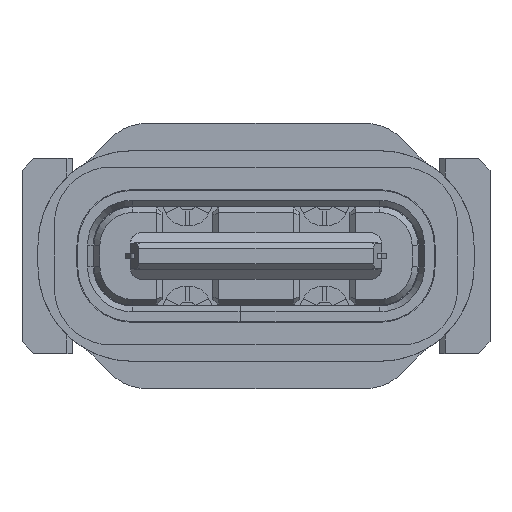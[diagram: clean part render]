
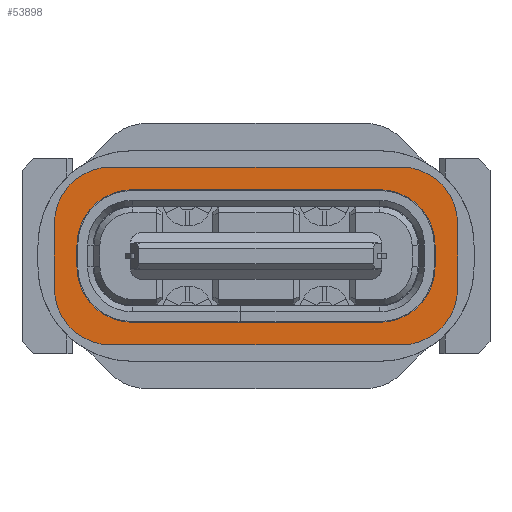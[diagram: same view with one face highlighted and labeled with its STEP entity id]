
A CAD part, front view. The second image highlights one B-rep face of the part: STEP entity #53898.
In plain terms, the highlighted planar face has unit normal (0, -1, 0).
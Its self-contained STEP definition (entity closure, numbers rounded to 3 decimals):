
#654 = ORIENTED_EDGE ( 'NONE', *, *, #29919, .T. ) ;
#780 = CARTESIAN_POINT ( 'NONE',  ( -4.59, 2.05, -0.28 ) ) ;
#984 = DIRECTION ( 'NONE',  ( -1., 0., 0. ) ) ;
#1003 = VERTEX_POINT ( 'NONE', #30060 ) ;
#2248 = CARTESIAN_POINT ( 'NONE',  ( -3.72, 2.05, 2.28 ) ) ;
#2548 = AXIS2_PLACEMENT_3D ( 'NONE', #55043, #28400, #32859 ) ;
#2582 = VERTEX_POINT ( 'NONE', #34916 ) ;
#2728 = CARTESIAN_POINT ( 'NONE',  ( 4.59, 2.05, -0.28 ) ) ;
#3539 = LINE ( 'NONE', #19230, #53010 ) ;
#3617 = CIRCLE ( 'NONE', #2548, 1.45 ) ;
#5668 = CARTESIAN_POINT ( 'NONE',  ( 4.59, 2.05, 0.28 ) ) ;
#6134 = CARTESIAN_POINT ( 'NONE',  ( -3.17, 2.05, 1.7 ) ) ;
#6153 = ORIENTED_EDGE ( 'NONE', *, *, #15359, .T. ) ;
#6462 = EDGE_CURVE ( 'NONE', #18599, #46091, #64008, .T. ) ;
#6954 = AXIS2_PLACEMENT_3D ( 'NONE', #62800, #42631, #63462 ) ;
#7701 = EDGE_CURVE ( 'NONE', #2582, #14417, #65459, .T. ) ;
#7747 = VERTEX_POINT ( 'NONE', #2248 ) ;
#7987 = AXIS2_PLACEMENT_3D ( 'NONE', #40722, #25350, #51979 ) ;
#8600 = ORIENTED_EDGE ( 'NONE', *, *, #67181, .T. ) ;
#8833 = DIRECTION ( 'NONE',  ( 0., -1., 0. ) ) ;
#8845 = CARTESIAN_POINT ( 'NONE',  ( 0., 2.05, 0. ) ) ;
#8975 = EDGE_CURVE ( 'NONE', #52590, #50797, #59598, .T. ) ;
#9856 = VECTOR ( 'NONE', #43208, 1000. ) ;
#10377 = DIRECTION ( 'NONE',  ( 0., -1., 0. ) ) ;
#10667 = LINE ( 'NONE', #780, #37428 ) ;
#10689 = CARTESIAN_POINT ( 'NONE',  ( -5.17, 2.05, 0.83 ) ) ;
#11037 = ORIENTED_EDGE ( 'NONE', *, *, #56728, .F. ) ;
#11854 = DIRECTION ( 'NONE',  ( 1., 0., 0. ) ) ;
#12390 = EDGE_CURVE ( 'NONE', #46091, #13156, #25447, .T. ) ;
#12628 = ORIENTED_EDGE ( 'NONE', *, *, #14397, .T. ) ;
#12660 = VERTEX_POINT ( 'NONE', #65834 ) ;
#13156 = VERTEX_POINT ( 'NONE', #24195 ) ;
#13290 = VERTEX_POINT ( 'NONE', #67505 ) ;
#14397 = EDGE_CURVE ( 'NONE', #13156, #2582, #29995, .T. ) ;
#14417 = VERTEX_POINT ( 'NONE', #41240 ) ;
#14643 = CARTESIAN_POINT ( 'NONE',  ( 3.17, 2.05, -1.7 ) ) ;
#14826 = ORIENTED_EDGE ( 'NONE', *, *, #8975, .F. ) ;
#15113 = CARTESIAN_POINT ( 'NONE',  ( -4.59, 2.05, 0.28 ) ) ;
#15359 = EDGE_CURVE ( 'NONE', #7747, #50797, #3617, .T. ) ;
#16011 = VERTEX_POINT ( 'NONE', #15113 ) ;
#16326 = CARTESIAN_POINT ( 'NONE',  ( 3.72, 2.05, -2.28 ) ) ;
#17081 = CARTESIAN_POINT ( 'NONE',  ( -5.17, 2.05, -0.83 ) ) ;
#17790 = ORIENTED_EDGE ( 'NONE', *, *, #7701, .T. ) ;
#18542 = VECTOR ( 'NONE', #50229, 1000. ) ;
#18599 = VERTEX_POINT ( 'NONE', #30499 ) ;
#19230 = CARTESIAN_POINT ( 'NONE',  ( -3.72, 2.05, 2.28 ) ) ;
#19556 = VECTOR ( 'NONE', #62411, 1000. ) ;
#19629 = CARTESIAN_POINT ( 'NONE',  ( -3.17, 2.05, 0.28 ) ) ;
#23056 = CARTESIAN_POINT ( 'NONE',  ( -3.17, 2.05, -0.28 ) ) ;
#24195 = CARTESIAN_POINT ( 'NONE',  ( 3.17, 2.05, -1.7 ) ) ;
#24255 = CIRCLE ( 'NONE', #35179, 1.45 ) ;
#24471 = ORIENTED_EDGE ( 'NONE', *, *, #25087, .T. ) ;
#24565 = DIRECTION ( 'NONE',  ( 0., 0., -1. ) ) ;
#25069 = EDGE_CURVE ( 'NONE', #14417, #16011, #10667, .T. ) ;
#25087 = EDGE_CURVE ( 'NONE', #12660, #18599, #65780, .T. ) ;
#25350 = DIRECTION ( 'NONE',  ( 0., 1., 0. ) ) ;
#25447 = CIRCLE ( 'NONE', #6954, 1.42 ) ;
#26111 = CARTESIAN_POINT ( 'NONE',  ( 5.17, 2.05, 0.83 ) ) ;
#27384 = EDGE_CURVE ( 'NONE', #52590, #45151, #60528, .T. ) ;
#27699 = EDGE_LOOP ( 'NONE', ( #11037, #6153, #14826, #62954, #48590, #8600, #57927, #58727 ) ) ;
#28400 = DIRECTION ( 'NONE',  ( 0., -1., 0. ) ) ;
#28858 = CARTESIAN_POINT ( 'NONE',  ( -5.17, 2.05, -0.83 ) ) ;
#29390 = LINE ( 'NONE', #40313, #18542 ) ;
#29665 = DIRECTION ( 'NONE',  ( 0., -1., 0. ) ) ;
#29919 = EDGE_CURVE ( 'NONE', #16011, #32207, #49724, .T. ) ;
#29995 = LINE ( 'NONE', #14643, #19556 ) ;
#30060 = CARTESIAN_POINT ( 'NONE',  ( 5.17, 2.05, 0.83 ) ) ;
#30200 = DIRECTION ( 'NONE',  ( 0., 1., 0. ) ) ;
#30499 = CARTESIAN_POINT ( 'NONE',  ( 4.59, 2.05, 0.28 ) ) ;
#30857 = DIRECTION ( 'NONE',  ( -1., 0., 0. ) ) ;
#31692 = LINE ( 'NONE', #16326, #45020 ) ;
#31825 = DIRECTION ( 'NONE',  ( 0., 0., 1. ) ) ;
#32207 = VERTEX_POINT ( 'NONE', #6134 ) ;
#32859 = DIRECTION ( 'NONE',  ( 0., 0., 1. ) ) ;
#33026 = CARTESIAN_POINT ( 'NONE',  ( 3.72, 2.05, 0.83 ) ) ;
#33037 = VERTEX_POINT ( 'NONE', #39639 ) ;
#33917 = EDGE_CURVE ( 'NONE', #1003, #33037, #36384, .T. ) ;
#34130 = CARTESIAN_POINT ( 'NONE',  ( 3.72, 2.05, -2.28 ) ) ;
#34341 = DIRECTION ( 'NONE',  ( 0., 1., 0. ) ) ;
#34916 = CARTESIAN_POINT ( 'NONE',  ( -3.17, 2.05, -1.7 ) ) ;
#34937 = DIRECTION ( 'NONE',  ( 1., 0., 0. ) ) ;
#35179 = AXIS2_PLACEMENT_3D ( 'NONE', #33026, #54177, #11854 ) ;
#35683 = DIRECTION ( 'NONE',  ( -1., 0., 0. ) ) ;
#36326 = EDGE_CURVE ( 'NONE', #32207, #12660, #29390, .T. ) ;
#36341 = CARTESIAN_POINT ( 'NONE',  ( -3.72, 2.05, -0.83 ) ) ;
#36384 = LINE ( 'NONE', #26111, #45593 ) ;
#37428 = VECTOR ( 'NONE', #31825, 1000. ) ;
#39639 = CARTESIAN_POINT ( 'NONE',  ( 5.17, 2.05, -0.83 ) ) ;
#40063 = EDGE_LOOP ( 'NONE', ( #58046, #12628, #17790, #58964, #654, #61650, #24471, #47177 ) ) ;
#40313 = CARTESIAN_POINT ( 'NONE',  ( -3.17, 2.05, 1.7 ) ) ;
#40722 = CARTESIAN_POINT ( 'NONE',  ( 3.17, 2.05, 0.28 ) ) ;
#41240 = CARTESIAN_POINT ( 'NONE',  ( -4.59, 2.05, -0.28 ) ) ;
#42631 = DIRECTION ( 'NONE',  ( 0., 1., 0. ) ) ;
#43208 = DIRECTION ( 'NONE',  ( 0., 0., 1. ) ) ;
#45020 = VECTOR ( 'NONE', #984, 1000. ) ;
#45151 = VERTEX_POINT ( 'NONE', #46926 ) ;
#45593 = VECTOR ( 'NONE', #57192, 1000. ) ;
#46091 = VERTEX_POINT ( 'NONE', #2728 ) ;
#46728 = FACE_OUTER_BOUND ( 'NONE', #27699, .T. ) ;
#46926 = CARTESIAN_POINT ( 'NONE',  ( -3.72, 2.05, -2.28 ) ) ;
#47177 = ORIENTED_EDGE ( 'NONE', *, *, #6462, .T. ) ;
#48590 = ORIENTED_EDGE ( 'NONE', *, *, #53953, .F. ) ;
#49317 = AXIS2_PLACEMENT_3D ( 'NONE', #8845, #29665, #24565 ) ;
#49513 = CIRCLE ( 'NONE', #62550, 1.45 ) ;
#49724 = CIRCLE ( 'NONE', #55173, 1.42 ) ;
#50229 = DIRECTION ( 'NONE',  ( 1., 0., 0. ) ) ;
#50797 = VERTEX_POINT ( 'NONE', #10689 ) ;
#50837 = DIRECTION ( 'NONE',  ( 0., 0., -1. ) ) ;
#51180 = FACE_BOUND ( 'NONE', #40063, .T. ) ;
#51979 = DIRECTION ( 'NONE',  ( 0., 0., 1. ) ) ;
#52590 = VERTEX_POINT ( 'NONE', #17081 ) ;
#53010 = VECTOR ( 'NONE', #34937, 1000. ) ;
#53431 = DIRECTION ( 'NONE',  ( 0., 0., -1. ) ) ;
#53866 = VECTOR ( 'NONE', #53431, 1000. ) ;
#53898 = ADVANCED_FACE ( 'NONE', ( #46728, #51180 ), #55971, .T. ) ;
#53953 = EDGE_CURVE ( 'NONE', #58572, #45151, #31692, .T. ) ;
#54177 = DIRECTION ( 'NONE',  ( 0., -1., 0. ) ) ;
#55043 = CARTESIAN_POINT ( 'NONE',  ( -3.72, 2.05, 0.83 ) ) ;
#55173 = AXIS2_PLACEMENT_3D ( 'NONE', #19629, #30200, #35683 ) ;
#55971 = PLANE ( 'NONE',  #49317 ) ;
#56728 = EDGE_CURVE ( 'NONE', #7747, #13290, #3539, .T. ) ;
#57192 = DIRECTION ( 'NONE',  ( 0., 0., -1. ) ) ;
#57927 = ORIENTED_EDGE ( 'NONE', *, *, #33917, .F. ) ;
#58046 = ORIENTED_EDGE ( 'NONE', *, *, #12390, .T. ) ;
#58572 = VERTEX_POINT ( 'NONE', #34130 ) ;
#58727 = ORIENTED_EDGE ( 'NONE', *, *, #66027, .T. ) ;
#58964 = ORIENTED_EDGE ( 'NONE', *, *, #25069, .T. ) ;
#59598 = LINE ( 'NONE', #28858, #9856 ) ;
#60007 = AXIS2_PLACEMENT_3D ( 'NONE', #23056, #34341, #60264 ) ;
#60264 = DIRECTION ( 'NONE',  ( 0., 0., -1. ) ) ;
#60528 = CIRCLE ( 'NONE', #67075, 1.45 ) ;
#61650 = ORIENTED_EDGE ( 'NONE', *, *, #36326, .T. ) ;
#62071 = CARTESIAN_POINT ( 'NONE',  ( 3.72, 2.05, -0.83 ) ) ;
#62411 = DIRECTION ( 'NONE',  ( -1., 0., 0. ) ) ;
#62550 = AXIS2_PLACEMENT_3D ( 'NONE', #62071, #8833, #50837 ) ;
#62800 = CARTESIAN_POINT ( 'NONE',  ( 3.17, 2.05, -0.28 ) ) ;
#62954 = ORIENTED_EDGE ( 'NONE', *, *, #27384, .T. ) ;
#63462 = DIRECTION ( 'NONE',  ( 1., 0., 0. ) ) ;
#64008 = LINE ( 'NONE', #5668, #53866 ) ;
#65459 = CIRCLE ( 'NONE', #60007, 1.42 ) ;
#65780 = CIRCLE ( 'NONE', #7987, 1.42 ) ;
#65834 = CARTESIAN_POINT ( 'NONE',  ( 3.17, 2.05, 1.7 ) ) ;
#66027 = EDGE_CURVE ( 'NONE', #1003, #13290, #24255, .T. ) ;
#67075 = AXIS2_PLACEMENT_3D ( 'NONE', #36341, #10377, #30857 ) ;
#67181 = EDGE_CURVE ( 'NONE', #58572, #33037, #49513, .T. ) ;
#67505 = CARTESIAN_POINT ( 'NONE',  ( 3.72, 2.05, 2.28 ) ) ;
